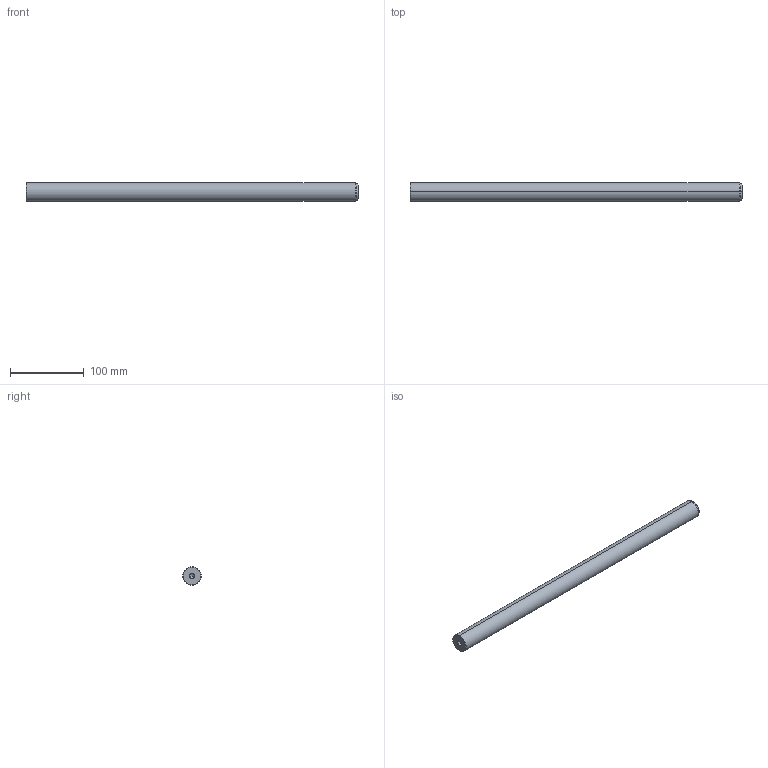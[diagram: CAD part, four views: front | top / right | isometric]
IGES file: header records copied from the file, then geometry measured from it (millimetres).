
Start section: START RECORD GO HERE.
Global section: file name: 720-25x450.igs; native system: DASSAULT SYSTEMES CATIA V5 R20 - www.3ds.com; preprocessor: CATIA Version 5 Release 20 ; author: Utente; organization: NB04-ASUS; date: 20210101.133633; units: millimetre
Bounding box: 450 x 25 x 25 mm (x, y, z)
Surface area: 37153.6 mm2 (no closed solid volume)
Topology: 0 solids, 0 shells, 22 faces, 120 edges, 116 vertices
Faces by surface type: revolution 20, plane 2
